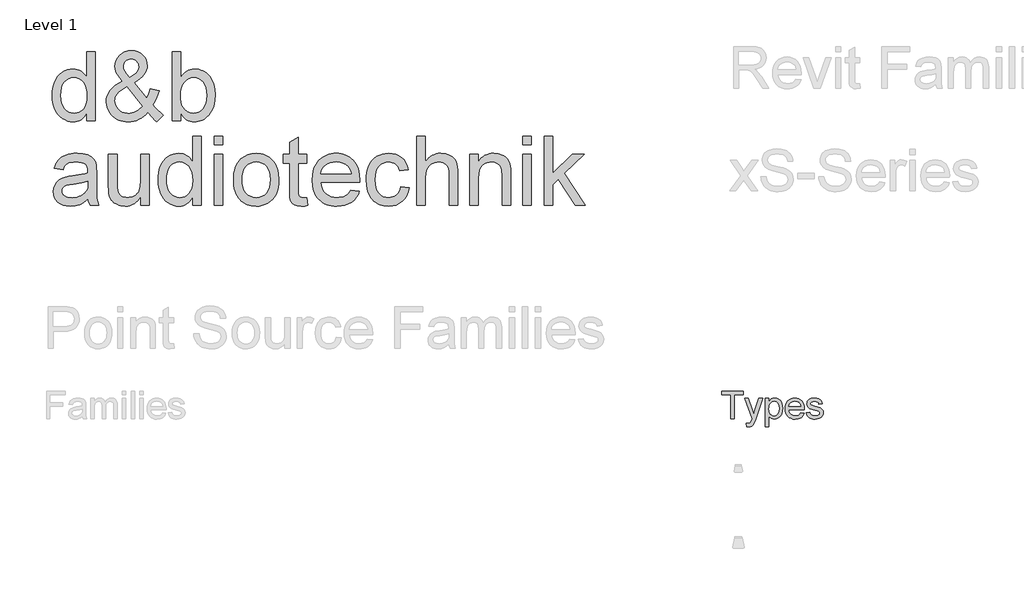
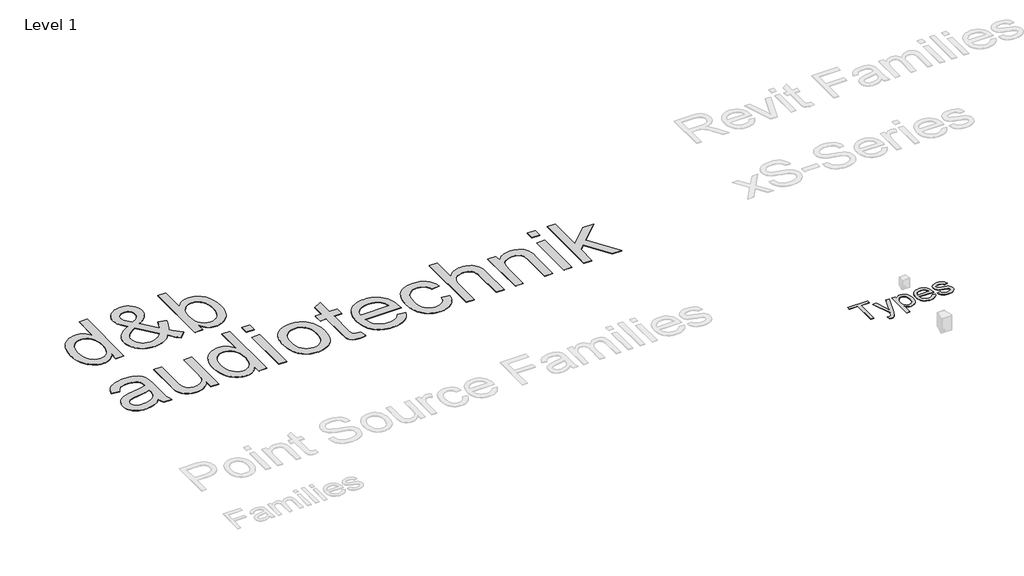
# One storey, part 10 of 12: 2 proxies.
"""IFC4 building model written with IfcOpenShell, lengths in millimetres."""

from ifc_helpers import new_model, si_unit, origin, origin_with_axes, place, context, project, spatial, polyline, outline, extrude, element, save

model = new_model("IFC4")

# Units and contexts
model_context = context("Model", 3, world=origin())
ifc_project = project(units=[si_unit("LENGTHUNIT", "METRE", prefix="MILLI")], contexts=[model_context])

# Site, building, storey
site = spatial("IfcSite", under=ifc_project)
building = spatial("IfcBuilding", under=site)
storey = spatial("IfcBuildingStorey", under=building, Name="Level 1", Elevation=0.0)

# Proxies
placement = place(None, origin())
element("IfcBuildingElementProxy", 1, Name="1000mm Arial", ObjectType="1000mm Arial", at=placement, inside=storey, context=model_context, shape_type="SweptSolid", body=[
    extrude(outline(polyline([(-20485.0918031, 21579.111869), (-20485.0918031, 21694.6019258), (-20502.4384754, 21663.947296), (-20521.720443, 21637.3799502), (-20542.937706, 21614.8998883), (-20566.0902643, 21596.5071105), (-20591.1781179, 21582.2016166), (-20618.2012669, 21571.9834066), (-20647.1597112, 21565.8524807), (-20678.0534508, 21563.8088387), (-20718.4630152, 21566.7678231), (-20757.1988107, 21575.6447762), (-20794.2608372, 21590.4396981), (-20829.6490948, 21611.1525887), (-20862.2577004, 21637.1632569), (-20890.9807709, 21667.8515115), (-20915.8183064, 21703.2173525), (-20936.7703069, 21743.26078), (-20953.4033857, 21787.2196312), (-20965.2841563, 21834.3317435), (-20972.4126187, 21884.597117), (-20974.7887728, 21938.0157516), (-20972.5994233, 21990.4555302), (-20966.0313746, 22040.4145442), (-20955.0846269, 22087.8927935), (-20939.75918, 22132.8902781), (-20920.0625062, 22174.0918939), (-20896.0020777, 22210.1825366), (-20867.5778945, 22241.1622064), (-20834.7899565, 22267.0309031), (-20798.7964521, 22287.429962), (-20760.7555697, 22302.0007184), (-20720.6673091, 22310.7431723), (-20678.5316705, 22313.6573235), (-20647.7163888, 22311.5725845), (-20618.6346535, 22305.3183676), (-20591.2864646, 22294.8946726), (-20565.671822, 22280.3014997), (-20542.0746689, 22262.3757332), (-20520.778948, 22241.9542577), (-20501.7846594, 22219.0370732), (-20485.0918031, 22193.6241796), (-20485.0918031, 22558.5058084), (-20362.6675607, 22558.5058084), (-20362.6675607, 21579.111869), (-20485.0918031, 21579.111869)]), holes=[polyline([(-20852.3645304, 21938.4939713), (-20848.9123819, 21879.1274792), (-20838.5559366, 21827.7562227), (-20821.2951944, 21784.3802017), (-20797.1301554, 21748.9994163), (-20768.2725855, 21721.5391447), (-20736.934251, 21701.9246649), (-20703.1151518, 21690.1559771), (-20666.815288, 21686.2330811), (-20630.3435639, 21689.9766447), (-20596.7262136, 21701.2073354), (-20565.9632372, 21719.9251532), (-20538.0546345, 21746.1300982), (-20514.8833958, 21780.0313914), (-20498.332511, 21821.8382539), (-20488.4019801, 21871.5506859), (-20485.0918031, 21929.1686872), (-20488.4617575, 21992.3385203), (-20498.5716208, 22046.5118453), (-20515.4213929, 22091.6886623), (-20539.0110739, 22127.8689713), (-20567.5323956, 22155.5907693), (-20599.1770896, 22175.3920537), (-20633.945156, 22187.2728242), (-20671.8365948, 22191.2330811), (-20708.8537882, 22187.4297401), (-20742.6728874, 22176.019717), (-20773.2938924, 22157.0030119), (-20800.7168031, 22130.3796247), (-20823.3126838, 22095.5667252), (-20839.4525986, 22051.9814831), (-20849.1365474, 21999.6238985), (-20852.3645304, 21938.4939713)])]), origin_with_axes(), (0.0, 0.0, 1.0), 5.0),
    extrude(outline(polyline([(-19617.362163, 21700.1014523), (-19647.8038355, 21668.157871), (-19679.590501, 21640.4734339), (-19712.7221594, 21617.0481409), (-19747.1988107, 21597.8819921), (-19783.0503436, 21582.9749875), (-19820.3066469, 21572.327127), (-19858.9677205, 21565.9384108), (-19899.0335645, 21563.8088387), (-19935.7219818, 21565.3854693), (-19970.4676317, 21570.1153609), (-20003.270514, 21577.9985138), (-20034.1306289, 21589.0349277), (-20063.0479762, 21603.2246028), (-20090.0225559, 21620.567539), (-20115.0543682, 21641.0637363), (-20138.143413, 21664.7131948), (-20169.42197, 21707.0505823), (-20191.7637965, 21751.8089571), (-20205.1688924, 21798.988319), (-20209.6372577, 21848.5886682), (-20206.0431377, 21892.569936), (-20195.260778, 21934.3693264), (-20177.2901785, 21973.9868394), (-20152.1313391, 22011.4224751), (-20119.829093, 22046.661289), (-20080.4282733, 22079.6883368), (-20033.9288799, 22110.5036185), (-19980.330913, 22139.1071341), (-20033.7420754, 22208.2098804), (-20065.8126838, 22262.9660357), (-20081.8629324, 22309.712011), (-20087.2130152, 22354.7842175), (-20082.9987041, 22397.569936), (-20070.3557709, 22437.4564476), (-20049.2842155, 22474.4437523), (-20019.784038, 22508.5318501), (-19983.9026163, 22537.0905326), (-19943.6873287, 22557.4895915), (-19899.138175, 22569.7290269), (-19850.2551554, 22573.8088387), (-19803.5839018, 22569.9083593), (-19761.3660692, 22558.2069211), (-19723.6016575, 22538.7045241), (-19690.2906667, 22511.4011682), (-19663.0919215, 22478.6281746), (-19643.6642463, 22442.7168643), (-19632.0076412, 22403.6672371), (-19628.1221061, 22361.4792932), (-19630.9988965, 22326.7336434), (-19639.6292676, 22293.273209), (-19654.0132194, 22261.09799), (-19674.150752, 22230.2079864), (-19700.0418653, 22200.6031983), (-19731.6865593, 22172.2836256), (-19769.084834, 22145.2492684), (-19812.2366895, 22119.5001266), (-19635.0562917, 21898.8017364), (-19604.8686734, 21961.866959), (-19582.2130152, 22034.3770205), (-19459.7887728, 22007.8358273), (-19477.213903, 21947.9836434), (-19497.4485739, 21894.4379817), (-19520.4927856, 21847.1988422), (-19546.346538, 21806.2662251), (-19512.6320493, 21763.9138931), (-19476.765572, 21725.0884315), (-19438.7471061, 21689.7898401), (-19398.5766516, 21658.018119), (-19490.3948334, 21563.8088387), (-19521.3745032, 21589.6327023), (-19552.8622813, 21620.9560925), (-19617.362163, 21700.1014523)]), holes=[polyline([(-19874.1661402, 22196.7326076), (-19810.1444783, 22237.3513931), (-19788.4004264, 22255.6657131), (-19773.500894, 22272.6499845), (-19756.2849849, 22306.9921365), (-19750.5463486, 22344.7416038), (-19752.4368108, 22367.2104574), (-19758.1081975, 22387.512378), (-19767.5605087, 22405.6473656), (-19780.7937444, 22421.6154201), (-19796.8664095, 22434.6394347), (-19814.8370091, 22443.9423022), (-19834.705543, 22449.5240228), (-19856.4720114, 22451.3845963), (-19878.7017552, 22449.5389671), (-19899.0036757, 22444.0020797), (-19917.3777732, 22434.773934), (-19933.8240474, 22421.85453), (-19947.3711148, 22406.2750289), (-19957.0475915, 22389.066592), (-19962.8534775, 22370.2292193), (-19964.7887728, 22349.7629107), (-19962.1585645, 22327.9142483), (-19954.2679395, 22304.9298141), (-19941.0571203, 22280.6900532), (-19922.4663296, 22255.0754107), (-19874.1661402, 22196.7326076)]), polyline([(-19699.376841, 21788.3329864), (-19917.9232425, 22061.1573235), (-19963.7202507, 22034.0333001), (-20001.4024684, 22007.8956048), (-20030.9698956, 21982.7442376), (-20052.4225323, 21958.5791985), (-20067.6433686, 21934.967101), (-20078.5153945, 21911.4745584), (-20085.03861, 21888.1015707), (-20087.2130152, 21864.8481379), (-20084.2390865, 21836.2446223), (-20075.3173003, 21807.1031095), (-20060.4476566, 21777.4235996), (-20039.6301554, 21747.2060925), (-20013.3579608, 21720.5304), (-19982.1242368, 21701.476334), (-19945.9289835, 21690.0438943), (-19904.7722008, 21686.2330811), (-19877.2969848, 21688.0114606), (-19849.3883822, 21693.3465991), (-19821.0463929, 21702.2384966), (-19792.2710171, 21714.6871531), (-19764.7210793, 21729.9602947), (-19740.055404, 21747.3256474), (-19718.2739912, 21766.7832113), (-19699.376841, 21788.3329864)])]), origin_with_axes(), (0.0, 0.0, 1.0), 5.0),
    extrude(outline(polyline([(-19153.7281667, 21579.111869), (-19276.1524092, 21579.111869), (-19276.1524092, 22558.5058084), (-19153.7281667, 22558.5058084), (-19153.7281667, 22195.2979485), (-19134.2481863, 22223.0384271), (-19113.468046, 22247.0801751), (-19091.3877459, 22267.4231927), (-19068.0072861, 22284.0674798), (-19043.3266664, 22297.0130364), (-19017.3458869, 22306.2598626), (-18990.0649476, 22311.8079583), (-18961.4838486, 22313.6573235), (-18929.5178507, 22311.9910268), (-18898.418626, 22306.9921365), (-18868.1861746, 22298.6606527), (-18838.8204963, 22286.9965754), (-18811.1734201, 22272.3137363), (-18786.0967747, 22254.925967), (-18763.5905602, 22234.8332675), (-18743.6547766, 22212.0356379), (-18710.3886189, 22158.7440305), (-18685.1924186, 22095.4695868), (-18669.3215024, 22024.8425153), (-18664.031197, 21949.4930243), (-18669.508307, 21862.5467056), (-18676.3546945, 21822.9964423), (-18685.9396369, 21786.0614429), (-18698.2631343, 21751.7417074), (-18713.3251867, 21720.0372359), (-18731.1257941, 21690.9480284), (-18751.6649565, 21664.4740849), (-18797.6861302, 21620.4330397), (-18822.3499374, 21603.1312005), (-18848.1158916, 21588.9751502), (-18874.9839928, 21577.9648889), (-18902.954241, 21570.1004166), (-18932.0266361, 21565.3817332), (-18962.2011781, 21563.8088387), (-18991.8694798, 21565.8375363), (-19019.9013734, 21571.9236292), (-19046.296859, 21582.0671173), (-19071.0559366, 21596.2680006), (-19094.1786062, 21614.5262792), (-19115.6648677, 21636.841953), (-19135.5147213, 21663.2150221), (-19153.7281667, 21693.6454864), (-19153.7281667, 21579.111869)]), holes=[polyline([(-19153.7281667, 21943.7543879), (-19151.6359556, 21888.5797904), (-19145.359322, 21841.6544826), (-19134.8982662, 21802.9784646), (-19120.252788, 21772.5517364), (-19090.5882224, 21734.7873247), (-19056.1115711, 21707.8127449), (-19016.8228341, 21691.6279971), (-18972.7220114, 21686.2330811), (-18936.1083159, 21690.2082823), (-18902.0650512, 21702.133886), (-18870.5922174, 21722.0098922), (-18841.6898145, 21749.8363008), (-18817.5247754, 21785.5383901), (-18800.2640332, 21829.0414381), (-18789.9075879, 21880.345445), (-18786.4554395, 21939.4504107), (-18789.7656164, 21999.6762037), (-18799.6961473, 22051.4733747), (-18816.2470322, 22094.8419234), (-18839.4182709, 22129.7818501), (-18867.2820404, 22156.6667636), (-18897.9105176, 22175.8702733), (-18931.3037024, 22187.3923792), (-18967.4615948, 22191.2330811), (-19004.0752903, 22187.2578799), (-19038.118555, 22175.3322762), (-19069.5913888, 22155.45627), (-19098.4937917, 22127.6298614), (-19122.6588308, 22092.2864369), (-19139.919573, 22049.8593832), (-19150.2760183, 22000.3487002), (-19153.7281667, 21943.7543879)])]), origin_with_axes(), (0.0, 0.0, 1.0), 5.0),
    extrude(outline(polyline([(-20469.7887728, 20473.9603538), (-20498.8182028, 20446.7167755), (-20528.2810195, 20423.8070631), (-20558.1772227, 20405.2312168), (-20588.5068126, 20390.9892364), (-20619.6135094, 20380.42357), (-20651.8410337, 20372.8766654), (-20719.6585645, 20366.8391417), (-20774.1681377, 20370.4706225), (-20821.9676909, 20381.365065), (-20863.0572239, 20399.5224691), (-20897.4367368, 20424.9428349), (-20924.5831768, 20456.0121708), (-20943.9734911, 20491.1164855), (-20955.6076796, 20530.2557788), (-20959.4857425, 20573.4300508), (-20953.6275512, 20624.1811162), (-20936.0529773, 20670.2695394), (-20908.9438983, 20709.7226644), (-20874.4821914, 20740.5678349), (-20833.9829608, 20763.8810451), (-20788.7613107, 20780.7382894), (-20744.7053211, 20790.123351), (-20682.8356478, 20799.1497478), (-20557.6616421, 20818.5176455), (-20509.331564, 20829.4569211), (-20470.5061023, 20841.2330811), (-20469.7887728, 20868.4916038), (-20471.8959283, 20898.1711138), (-20478.217395, 20923.1282042), (-20488.7531727, 20943.3628751), (-20503.5032614, 20958.8751266), (-20528.998349, 20974.3574893), (-20560.0527406, 20985.4163198), (-20596.6664362, 20992.051618), (-20638.8394357, 20994.2633841), (-20678.0534508, 20992.7913641), (-20711.7679395, 20988.3753041), (-20739.9829016, 20981.0152041), (-20762.6983372, 20970.7110641), (-20781.3638497, 20956.6558883), (-20797.4290427, 20938.042681), (-20810.893916, 20914.8714423), (-20821.7584698, 20887.142172), (-20944.1827122, 20902.4452023), (-20934.8649003, 20937.713905), (-20922.9318244, 20969.3959599), (-20908.3834846, 20997.4913671), (-20891.2198808, 21022.0001266), (-20870.7012669, 21043.4154024), (-20846.0878969, 21062.2303586), (-20817.3797707, 21078.4449952), (-20784.5768883, 21092.0593122), (-20748.3442741, 21102.8341997), (-20709.3469523, 21110.530548), (-20667.5849228, 21115.1483569), (-20623.0581857, 21116.6876266), (-20540.2962894, 21111.2478775), (-20505.3488906, 21104.4481912), (-20474.6905247, 21094.9286304), (-20425.2246748, 21070.3899822), (-20406.1631366, 21056.0359191), (-20390.8825228, 21040.29203), (-20368.1073097, 21003.0805598), (-20353.3422766, 20957.2013576), (-20348.8589669, 20914.8789144), (-20347.3645304, 20850.0801455), (-20347.3645304, 20697.767172), (-20345.8103164, 20565.0910948), (-20341.1476743, 20485.0789618), (-20331.9419452, 20432.5046839), (-20316.7584698, 20382.142172), (-20439.1827122, 20382.142172), (-20458.7897198, 20424.7037251), (-20469.7887728, 20473.9603538)]), holes=[polyline([(-20469.7887728, 20718.8088387), (-20552.0425607, 20698.4247241), (-20667.2935077, 20681.2685925), (-20730.8070612, 20671.8835309), (-20772.6213959, 20661.4224751), (-20800.0293623, 20647.8529912), (-20820.3238107, 20629.1426455), (-20832.8770777, 20606.7260972), (-20837.0615001, 20582.0380054), (-20834.7824843, 20563.013828), (-20827.9454371, 20545.6335309), (-20816.5503584, 20529.897114), (-20800.5972482, 20515.8045773), (-20780.2355501, 20504.1928053), (-20755.6147079, 20495.8986824), (-20726.7347215, 20490.9222087), (-20693.595591, 20489.2633841), (-20659.7615474, 20491.0940689), (-20627.8403827, 20496.5861233), (-20597.8320967, 20505.7395471), (-20569.7366895, 20518.5543406), (-20544.3910455, 20533.9694536), (-20522.6320493, 20550.9238363), (-20504.4597008, 20569.4174887), (-20489.8740001, 20589.4504107), (-20481.4005448, 20607.3836493), (-20475.3480768, 20629.1426455), (-20470.5061023, 20684.1379107), (-20469.7887728, 20718.8088387)])]), origin_with_axes(), (0.0, 0.0, 1.0), 5.0),
    extrude(outline(polyline([(-19719.940288, 20382.142172), (-19719.940288, 20505.7619637), (-19741.1762314, 20473.2019273), (-19764.2353874, 20444.9832291), (-19789.117756, 20421.1058691), (-19815.8233372, 20401.5698472), (-19844.352131, 20386.3751636), (-19874.7041374, 20375.5218181), (-19906.8793564, 20369.0098108), (-19940.877788, 20366.8391417), (-20000.5058064, 20372.9364429), (-20028.7730738, 20380.5580693), (-20056.00918, 20391.2283463), (-20102.575823, 20418.7259788), (-20120.7033384, 20434.8061162), (-20135.3936497, 20452.4404675), (-20157.4814219, 20493.388029), (-20171.8579016, 20542.5848804), (-20177.2378732, 20588.972191), (-20179.031197, 20656.4011682), (-20179.031197, 21101.3845963), (-20056.6069546, 21101.3845963), (-20056.6069546, 20714.0266417), (-20054.7538533, 20636.5550508), (-20049.1945493, 20589.2113008), (-20041.864338, 20567.1459451), (-20031.3509769, 20547.5762984), (-20017.6544659, 20530.5023608), (-20000.774805, 20515.9241323), (-19981.2201027, 20504.260055), (-19959.4984674, 20495.9285712), (-19935.6098991, 20490.9296809), (-19909.5543978, 20489.2633841), (-19882.7217895, 20490.9670418), (-19856.74101, 20496.0780148), (-19831.6120594, 20504.5963032), (-19807.3349376, 20516.5219069), (-19785.2247488, 20531.3840784), (-19766.5965971, 20548.7120702), (-19751.4504827, 20568.5058824), (-19739.7864054, 20590.7655148), (-19731.103729, 20616.9106823), (-19724.9018173, 20648.3610996), (-19719.940288, 20727.1776834), (-19719.940288, 21101.3845963), (-19597.5160455, 21101.3845963), (-19597.5160455, 20382.142172), (-19719.940288, 20382.142172)])), origin_with_axes(), (0.0, 0.0, 1.0), 5.0),
    extrude(outline(polyline([(-18985.3948334, 20382.142172), (-18985.3948334, 20497.6322288), (-19002.7415057, 20466.977599), (-19022.0234733, 20440.4102532), (-19043.2407363, 20417.9301914), (-19066.3932946, 20399.5374135), (-19091.4811482, 20385.2319196), (-19118.5042972, 20375.0137097), (-19147.4627415, 20368.8827837), (-19178.3564811, 20366.8391417), (-19218.7660455, 20369.7981261), (-19257.501841, 20378.6750792), (-19294.5638675, 20393.4700011), (-19329.9521251, 20414.1828917), (-19362.5607307, 20440.1935599), (-19391.2838012, 20470.8818145), (-19416.1213367, 20506.2476556), (-19437.0733372, 20546.291083), (-19453.706416, 20590.2499342), (-19465.5871866, 20637.3620466), (-19472.715649, 20687.62742), (-19475.0918031, 20741.0460546), (-19472.9024536, 20793.4858332), (-19466.3344049, 20843.4448472), (-19455.3876572, 20890.9230965), (-19440.0622103, 20935.9205811), (-19420.3655365, 20977.1221969), (-19396.305108, 21013.2128396), (-19367.8809248, 21044.1925094), (-19335.0929868, 21070.0612061), (-19299.0994824, 21090.4602651), (-19261.0586, 21105.0310215), (-19220.9703394, 21113.7734753), (-19178.8347008, 21116.6876266), (-19148.0194191, 21114.6028876), (-19118.9376838, 21108.3486706), (-19091.5894949, 21097.9249756), (-19065.9748523, 21083.3318027), (-19042.3776992, 21065.4060363), (-19021.0819783, 21044.9845608), (-19002.0876897, 21022.0673762), (-18985.3948334, 20996.6544826), (-18985.3948334, 21361.5361114), (-18862.970591, 21361.5361114), (-18862.970591, 20382.142172), (-18985.3948334, 20382.142172)]), holes=[polyline([(-19352.6675607, 20741.5242743), (-19349.2154122, 20682.1577822), (-19338.8589669, 20630.7865257), (-19321.5982247, 20587.4105048), (-19297.4331857, 20552.0297194), (-19268.5756158, 20524.5694477), (-19237.2372813, 20504.954968), (-19203.4181821, 20493.1862801), (-19167.1183183, 20489.2633841), (-19130.6465942, 20493.0069477), (-19097.0292439, 20504.2376384), (-19066.2662675, 20522.9554562), (-19038.3576648, 20549.1604012), (-19015.1864261, 20583.0616944), (-18998.6355413, 20624.868557), (-18988.7050104, 20674.5809889), (-18985.3948334, 20732.1989902), (-18988.7647878, 20795.3688233), (-18998.8746511, 20849.5421483), (-19015.7244233, 20894.7189653), (-19039.3141042, 20930.8992743), (-19067.8354259, 20958.6210724), (-19099.4801199, 20978.4223567), (-19134.2481863, 20990.3031273), (-19172.1396251, 20994.2633841), (-19209.1568185, 20990.4600431), (-19242.9759177, 20979.05002), (-19273.5969227, 20960.0333149), (-19301.0198334, 20933.4099277), (-19323.6157141, 20898.5970282), (-19339.7556289, 20855.0117861), (-19349.4395777, 20802.6542015), (-19352.6675607, 20741.5242743)])]), origin_with_axes(), (0.0, 0.0, 1.0), 5.0),
    extrude(outline(polyline([(-18679.3342273, 20382.142172), (-18679.3342273, 21101.3845963), (-18556.9099849, 21101.3845963), (-18556.9099849, 20382.142172), (-18679.3342273, 20382.142172)])), origin_with_axes(), (0.0, 0.0, 1.0), 5.0),
    extrude(outline(polyline([(-18679.3342273, 21239.111869), (-18679.3342273, 21361.5361114), (-18556.9099849, 21361.5361114), (-18556.9099849, 21239.111869), (-18679.3342273, 21239.111869)])), origin_with_axes(), (0.0, 0.0, 1.0), 5.0),
    extrude(outline(polyline([(-18403.8796819, 20741.7633841), (-18402.2245934, 20789.9477547), (-18397.259328, 20834.9116145), (-18388.9838856, 20876.6549635), (-18377.3982662, 20915.1778018), (-18362.5024698, 20950.4801292), (-18344.2964965, 20982.5619459), (-18322.7803463, 21011.4232519), (-18297.954019, 21037.064047), (-18251.2977098, 21071.8993631), (-18199.7994262, 21096.7817317), (-18143.4591682, 21111.7111528), (-18082.2769357, 21116.6876266), (-18014.7358757, 21110.6276863), (-17983.391937, 21103.0527611), (-17953.6657259, 21092.4478657), (-17925.5572424, 21078.8130002), (-17899.0664865, 21062.1481646), (-17874.1934581, 21042.4533588), (-17850.9381573, 21019.728583), (-17829.8946226, 20994.3325018), (-17811.6568925, 20966.6237801), (-17796.224967, 20936.6024178), (-17783.5988462, 20904.2684149), (-17773.77853, 20869.6217715), (-17766.7640184, 20832.6624875), (-17761.1524092, 20751.8059978), (-17763.6331738, 20686.2749549), (-17771.0754679, 20628.1264287), (-17783.4792913, 20577.3604189), (-17800.844644, 20533.9769258), (-17822.9548328, 20496.5039292), (-17849.5931644, 20463.4694092), (-17880.7596387, 20434.8733658), (-17916.4542558, 20410.7157989), (-17955.2871896, 20391.5197614), (-17995.8686142, 20377.808306), (-18038.1985295, 20369.5814328), (-18082.2769357, 20366.8391417), (-18150.8043238, 20372.8766654), (-18182.4845107, 20380.42357), (-18212.4423594, 20390.9892364), (-18240.6778701, 20404.5736647), (-18267.1910426, 20421.1768548), (-18291.9818769, 20440.7988067), (-18315.0503732, 20463.4395205), (-18335.8697424, 20488.9196637), (-18353.9131957, 20517.059904), (-18369.1807332, 20547.8602414), (-18381.6723547, 20581.3206758), (-18391.3880604, 20617.4412073), (-18398.3278501, 20656.2218358), (-18403.8796819, 20741.7633841)]), holes=[polyline([(-18281.4554395, 20742.002494), (-18277.9136248, 20682.6210576), (-18267.2881809, 20631.204968), (-18249.5791078, 20587.7542252), (-18224.7864054, 20552.2688292), (-18194.6286757, 20524.703947), (-18160.8245209, 20505.0147454), (-18123.3739409, 20493.2012245), (-18082.2769357, 20489.2633841), (-18041.3891516, 20493.223641), (-18004.0880152, 20505.1044116), (-17970.3735266, 20524.9056959), (-17940.2456857, 20552.627494), (-17915.4529833, 20588.4640825), (-17897.7439101, 20632.6097383), (-17887.1184662, 20685.0644613), (-17883.5766516, 20745.8282516), (-17887.1408828, 20803.3266979), (-17897.8335763, 20853.3977947), (-17915.6547322, 20896.0415417), (-17940.6043505, 20931.2579391), (-17970.8442741, 20958.8228213), (-18004.5363462, 20978.5120229), (-18041.6805667, 20990.3255438), (-18082.2769357, 20994.2633841), (-18123.3739409, 20990.3404882), (-18160.8245209, 20978.5718003), (-18194.6286757, 20958.9573206), (-18224.7864054, 20931.4970489), (-18249.5791078, 20896.1162635), (-18267.2881809, 20852.7402426), (-18277.9136248, 20801.3689861), (-18281.4554395, 20742.002494)])]), origin_with_axes(), (0.0, 0.0, 1.0), 5.0),
    extrude(outline(polyline([(-17363.2736213, 20484.2420773), (-17347.970591, 20378.5555243), (-17396.4501128, 20369.7682374), (-17439.549663, 20366.8391417), (-17498.3109082, 20371.920226), (-17522.0873938, 20378.2715814), (-17542.127788, 20387.1634788), (-17573.0925133, 20410.6560215), (-17593.2972955, 20440.4849751), (-17599.7831502, 20461.5415861), (-17604.4159035, 20491.7142601), (-17608.1221061, 20579.407797), (-17608.1221061, 20978.9603538), (-17699.940288, 20978.9603538), (-17699.940288, 21101.3845963), (-17608.1221061, 21101.3845963), (-17608.1221061, 21276.1738955), (-17485.6978637, 21348.1459599), (-17485.6978637, 21101.3845963), (-17363.2736213, 21101.3845963), (-17363.2736213, 20978.9603538), (-17485.6978637, 20978.9603538), (-17485.6978637, 20582.9944448), (-17484.0838722, 20542.7044353), (-17479.2418978, 20519.8694448), (-17470.7833869, 20507.2265115), (-17458.3197861, 20497.5126739), (-17440.655546, 20491.3257066), (-17416.5951175, 20489.2633841), (-17363.2736213, 20484.2420773)])), origin_with_axes(), (0.0, 0.0, 1.0), 5.0),
    extrude(outline(polyline([(-16737.284038, 20596.3845963), (-16617.250894, 20581.081566), (-16635.6548802, 20533.0055421), (-16660.4998879, 20490.6382658), (-16691.7859171, 20453.9797371), (-16729.5129679, 20423.0299561), (-16773.2924867, 20398.4464748), (-16822.7359201, 20380.8868453), (-16877.8432679, 20370.3510676), (-16938.6145304, 20366.8391417), (-16977.6305327, 20368.3541268), (-17014.5767404, 20372.8990819), (-17049.4531534, 20380.4740072), (-17082.2597719, 20391.0789026), (-17112.9965957, 20404.7137681), (-17141.6636248, 20421.3786037), (-17168.2608594, 20441.0734094), (-17192.7882993, 20463.7981853), (-17214.812558, 20489.25778), (-17233.9002489, 20517.1570424), (-17250.0513719, 20547.4959725), (-17263.2659272, 20580.2745702), (-17273.5439146, 20615.4928356), (-17280.8853341, 20653.1507687), (-17286.7584698, 20735.7856379), (-17280.8255567, 20821.2225757), (-17273.4094153, 20860.1414396), (-17263.0268173, 20896.5272336), (-17249.6777628, 20930.3799576), (-17233.3622517, 20961.6996117), (-17214.0802841, 20990.4861958), (-17191.8318599, 21016.7397099), (-17167.2184899, 21040.1650029), (-17140.8416847, 21060.4669234), (-17112.7014444, 21077.6454716), (-17082.797769, 21091.7006474), (-17051.1306585, 21102.6324508), (-17017.7001128, 21110.4408818), (-16982.5061319, 21115.1259404), (-16945.548716, 21116.6876266), (-16909.7999256, 21115.1296765), (-16875.721168, 21110.4558261), (-16843.3124433, 21102.6660756), (-16812.5737515, 21091.7604249), (-16783.5050925, 21077.7388739), (-16756.1064663, 21060.6014227), (-16730.377873, 21040.3480713), (-16706.3193126, 21016.9788198), (-16684.54724, 20990.7850831), (-16665.6781105, 20962.0582764), (-16649.711924, 20930.7983998), (-16636.6486805, 20897.0054533), (-16626.48838, 20860.6794368), (-16619.2310224, 20821.8203503), (-16613.4251364, 20736.5029675), (-16614.142466, 20703.5058084), (-17164.3342273, 20703.5058084), (-17157.2431259, 20654.6526775), (-17143.143117, 20611.866959), (-17122.0342007, 20575.1486528), (-17093.916377, 20544.4977591), (-17060.3438598, 20520.3327201), (-17022.8708632, 20503.0719779), (-16981.4973873, 20492.7155326), (-16936.2234319, 20489.2633841), (-16902.3594996, 20490.8624313), (-16871.0659982, 20495.6595726), (-16842.3429276, 20503.6548082), (-16816.190288, 20514.8481379), (-16792.6080791, 20529.5384492), (-16771.5963012, 20548.0246294), (-16753.1549541, 20570.3066784), (-16737.284038, 20596.3845963)]), holes=[polyline([(-17164.3342273, 20825.9300508), (-16735.8493789, 20825.9300508), (-16742.1409568, 20860.5710901), (-16752.4077359, 20890.6092648), (-16766.6497162, 20916.044575), (-16784.8668978, 20936.8770205), (-16818.2526104, 20961.9835546), (-16856.2411876, 20979.9167932), (-16898.8326293, 20990.6767364), (-16946.0269357, 20994.2633841), (-16989.0741806, 20991.4015381), (-17028.5497221, 20982.8160001), (-17064.4535603, 20968.5067702), (-17096.7856952, 20948.4738482), (-17123.9171908, 20923.6437848), (-17144.2191113, 20894.9431308), (-17157.6914569, 20862.3718862), (-17164.3342273, 20825.9300508)])]), origin_with_axes(), (0.0, 0.0, 1.0), 5.0),
    extrude(outline(polyline([(-16031.9099849, 20642.2936872), (-15909.4857425, 20626.9906569), (-15922.8011722, 20569.2232119), (-15943.6186734, 20518.1060096), (-15971.9382461, 20473.63905), (-16007.7598902, 20435.822333), (-16049.574225, 20405.6421868), (-16095.8718694, 20384.0849395), (-16146.6528235, 20371.1505912), (-16201.9170872, 20366.8391417), (-16270.5789746, 20372.8542488), (-16302.2479532, 20380.3731328), (-16332.1422884, 20390.8995702), (-16360.2619802, 20404.4335613), (-16386.6070286, 20420.9751059), (-16411.1774336, 20440.524204), (-16433.9731952, 20463.0808557), (-16454.5123575, 20488.4470482), (-16472.3129649, 20516.4247685), (-16487.3750173, 20547.0140167), (-16499.6985148, 20580.2147928), (-16509.2834572, 20616.0270967), (-16516.1298447, 20654.4509285), (-16521.6069546, 20739.1331758), (-16519.2681614, 20795.4211286), (-16512.2517818, 20848.0776005), (-16500.5578158, 20897.1025916), (-16484.1862633, 20942.4961019), (-16463.0250417, 20983.3465251), (-16436.9620683, 21018.7422549), (-16405.9973429, 21048.6832912), (-16370.1308656, 21073.1696341), (-16330.9841001, 21092.2087558), (-16290.17851, 21105.8081285), (-16247.7140954, 21113.967752), (-16203.5908561, 21116.6876266), (-16149.2755596, 21112.9515352), (-16100.1459579, 21101.743261), (-16056.2020511, 21083.0628041), (-16017.4438391, 21056.9101644), (-15984.528874, 21023.8831166), (-15958.1147079, 20984.5794353), (-15938.2013409, 20938.9991204), (-15924.7887728, 20887.142172), (-16047.2130152, 20871.8391417), (-16056.769937, 20900.4351852), (-16069.4203424, 20925.2503041), (-16085.1642315, 20946.2844986), (-16104.0016042, 20963.5377686), (-16125.454241, 20976.9802254), (-16149.0439219, 20986.5819803), (-16174.7706472, 20992.3430332), (-16202.6344167, 20994.2633841), (-16244.2320582, 20990.4824597), (-16281.7498879, 20979.1396862), (-16315.1879057, 20960.2350638), (-16344.5461118, 20933.7685925), (-16368.4496245, 20899.1275532), (-16385.5235621, 20855.6992269), (-16395.7679247, 20803.4836138), (-16399.1827122, 20742.4807137), (-16395.8426465, 20680.5587351), (-16385.8224494, 20627.7378751), (-16369.1221209, 20584.0181338), (-16345.7416611, 20549.399511), (-16316.9662852, 20523.0899555), (-16284.0812089, 20504.2974159), (-16247.086432, 20493.0218921), (-16205.9819546, 20489.2633841), (-16172.8577684, 20491.6096495), (-16142.587956, 20498.6484457), (-16115.1725175, 20510.3797726), (-16090.6114527, 20526.8036304), (-16069.5922026, 20548.0993512), (-16052.8022079, 20574.4462677), (-16040.2414687, 20605.8443796), (-16031.9099849, 20642.2936872)])), origin_with_axes(), (0.0, 0.0, 1.0), 5.0),
    extrude(outline(polyline([(-15802.3645304, 20382.142172), (-15802.3645304, 21361.5361114), (-15679.940288, 21361.5361114), (-15679.940288, 21001.4366796), (-15658.1476669, 21028.4486203), (-15634.9726921, 21051.8589689), (-15610.4153634, 21071.6677254), (-15584.4756809, 21087.8748898), (-15557.1536447, 21100.4804622), (-15528.4492546, 21109.4844424), (-15498.3625107, 21114.8868305), (-15466.893413, 21116.6876266), (-15428.6208928, 21114.7224425), (-15392.9486923, 21108.8268903), (-15359.8768114, 21099.00097), (-15329.4052501, 21085.2446815), (-15302.3111154, 21068.0213002), (-15279.3715143, 21047.7941015), (-15260.5864468, 21024.5630853), (-15245.955913, 20998.3282516), (-15234.9718043, 20967.4681367), (-15227.1260124, 20930.3612771), (-15222.4185372, 20887.0076727), (-15220.8493789, 20837.4073235), (-15220.8493789, 20382.142172), (-15343.2736213, 20382.142172), (-15343.2736213, 20824.7345016), (-15345.7095529, 20866.0706166), (-15353.0173476, 20901.369208), (-15365.1970055, 20930.6302757), (-15382.2485266, 20953.8538198), (-15403.768413, 20971.5330042), (-15429.3531667, 20984.160993), (-15459.002788, 20991.7377864), (-15492.7172766, 20994.2633841), (-15518.981999, 20992.5597265), (-15544.4546701, 20987.4487535), (-15569.1352897, 20978.9304651), (-15593.023858, 20967.0048614), (-15614.8276873, 20952.1651064), (-15633.25409, 20934.9043643), (-15648.3030661, 20915.2226349), (-15659.9746156, 20893.1199182), (-15668.7095973, 20867.5799975), (-15674.9488699, 20837.5866559), (-15679.940288, 20764.2397099), (-15679.940288, 20382.142172), (-15802.3645304, 20382.142172)])), origin_with_axes(), (0.0, 0.0, 1.0), 5.0),
    extrude(outline(polyline([(-15052.5160455, 20382.142172), (-15052.5160455, 21101.3845963), (-14930.0918031, 21101.3845963), (-14930.0918031, 21000.9584599), (-14909.8944931, 21028.0824833), (-14887.5601388, 21051.5899703), (-14863.0887403, 21071.4809208), (-14836.4802974, 21087.7553349), (-14807.7348103, 21100.4132125), (-14776.852279, 21109.4545537), (-14743.8327033, 21114.8793583), (-14708.6760834, 21116.6876266), (-14648.3307354, 21110.859324), (-14593.0664717, 21093.3744163), (-14568.3634354, 21080.8062049), (-14546.9780484, 21066.4147809), (-14528.9103104, 21050.2001443), (-14514.1602217, 21032.1622951), (-14491.893117, 20990.7066251), (-14477.4568599, 20942.1374372), (-14472.6148855, 20895.6903491), (-14471.000894, 20823.7780622), (-14471.000894, 20382.142172), (-14593.4251364, 20382.142172), (-14593.4251364, 20807.2794826), (-14596.9520067, 20870.583815), (-14607.5326175, 20915.596244), (-14615.9388231, 20932.6253485), (-14627.0499589, 20947.8461848), (-14657.3870209, 20972.8630527), (-14696.27226, 20988.9133013), (-14741.4341327, 20994.2633841), (-14778.6082419, 20991.2595667), (-14813.1371985, 20982.2481143), (-14845.0210023, 20967.2290269), (-14874.2596535, 20946.2023046), (-14898.6862189, 20916.7768489), (-14916.1337657, 20876.5615612), (-14926.6022938, 20825.5564417), (-14930.0918031, 20763.7614902), (-14930.0918031, 20382.142172), (-15052.5160455, 20382.142172)])), origin_with_axes(), (0.0, 0.0, 1.0), 5.0),
    extrude(outline(polyline([(-14302.6675607, 20382.142172), (-14302.6675607, 21101.3845963), (-14180.2433183, 21101.3845963), (-14180.2433183, 20382.142172), (-14302.6675607, 20382.142172)])), origin_with_axes(), (0.0, 0.0, 1.0), 5.0),
    extrude(outline(polyline([(-14302.6675607, 21239.111869), (-14302.6675607, 21361.5361114), (-14180.2433183, 21361.5361114), (-14180.2433183, 21239.111869), (-14302.6675607, 21239.111869)])), origin_with_axes(), (0.0, 0.0, 1.0), 5.0),
    extrude(outline(polyline([(-13996.6069546, 20382.142172), (-13996.6069546, 21361.5361114), (-13874.1827122, 21361.5361114), (-13874.1827122, 20835.2553349), (-13599.6846061, 21101.3845963), (-13430.3948334, 21101.3845963), (-13708.2404773, 20831.907797), (-13415.0918031, 20382.142172), (-13558.0794925, 20382.142172), (-13795.9937917, 20746.784691), (-13874.1827122, 20670.986869), (-13874.1827122, 20382.142172), (-13996.6069546, 20382.142172)])), origin_with_axes(), (0.0, 0.0, 1.0), 5.0),
])
element("IfcBuildingElementProxy", 2, Name="400mm Arial", ObjectType="400mm Arial", at=placement, inside=storey, context=model_context, shape_type="SweptSolid", body=[
    extrude(outline(polyline([(-11345.9583027, 17351.3054836), (-11345.9583027, 17694.0933624), (-11474.5037572, 17694.0933624), (-11474.5037572, 17743.0630593), (-11168.4431512, 17743.0630593), (-11168.4431512, 17694.0933624), (-11296.9886057, 17694.0933624), (-11296.9886057, 17351.3054836), (-11345.9583027, 17351.3054836)])), origin_with_axes(), (0.0, 0.0, 1.0), 5.0),
    extrude(outline(polyline([(-11119.4734542, 17241.1236654), (-11125.5946663, 17288.2761275), (-11100.7272421, 17283.9721502), (-11087.6479334, 17285.3231209), (-11077.4857648, 17289.3760328), (-11063.2348179, 17304.4399533), (-11049.8446663, 17340.4977184), (-11046.0189088, 17352.3575669), (-11150.0795148, 17639.0024533), (-11098.4317875, 17639.0024533), (-11043.2452345, 17479.2770745), (-11024.0208027, 17415.386923), (-11004.7963709, 17471.8168472), (-10948.0795148, 17639.0024533), (-10896.8143633, 17639.0024533), (-10996.9535679, 17344.4191199), (-11022.9687194, 17280.5289684), (-11036.2871379, 17260.1328983), (-11051.3749694, 17246.0015063), (-11068.9017213, 17237.7522165), (-11089.5369012, 17235.0024533), (-11119.4734542, 17241.1236654)])), origin_with_axes(), (0.0, 0.0, 1.0), 5.0),
    extrude(outline(polyline([(-10856.261333, 17241.1236654), (-10856.261333, 17639.0024533), (-10807.291636, 17639.0024533), (-10807.291636, 17590.9891957), (-10791.3190982, 17614.6730262), (-10773.4336815, 17631.590048), (-10752.5833027, 17641.740261), (-10727.7158785, 17645.1236654), (-10694.5991644, 17640.3892904), (-10665.6429618, 17626.1861654), (-10642.0667307, 17603.3750858), (-10625.0899315, 17572.8168472), (-10614.832119, 17536.7351711), (-10611.4128482, 17497.353779), (-10615.2744722, 17455.4736891), (-10626.8593444, 17418.0171313), (-10645.7968444, 17386.885029), (-10671.7163519, 17363.9783055), (-10701.9039703, 17349.88278), (-10733.6458027, 17345.1842715), (-10756.1579949, 17348.328566), (-10776.2551777, 17357.7614495), (-10793.4591313, 17372.000441), (-10807.291636, 17389.5630593), (-10807.291636, 17241.1236654), (-10856.261333, 17241.1236654)]), holes=[polyline([(-10807.291636, 17492.8585139), (-10801.9953529, 17448.9579457), (-10795.374999, 17431.9572355), (-10786.1065035, 17418.2562411), (-10762.6617828, 17400.1795366), (-10749.2447314, 17395.6603605), (-10734.697886, 17394.1539684), (-10719.9418195, 17395.7141602), (-10706.2796805, 17400.3947355), (-10682.2371853, 17419.1170366), (-10672.6757802, 17433.3141839), (-10665.8462052, 17450.9425574), (-10660.3825451, 17496.4929836), (-10665.7146947, 17540.1544419), (-10672.3798818, 17557.2866625), (-10681.7111436, 17571.2865442), (-10705.1199978, 17589.9371124), (-10718.3846166, 17594.5997544), (-10732.6893633, 17596.1539684), (-10746.9492769, 17594.5011216), (-10760.3663283, 17589.5425811), (-10784.6718444, 17569.7084192), (-10794.5680032, 17554.9882191), (-10801.6366881, 17537.2731682), (-10805.8778991, 17516.5632665), (-10807.291636, 17492.8585139)])]), origin_with_axes(), (0.0, 0.0, 1.0), 5.0),
    extrude(outline(polyline([(-10354.8958027, 17437.0024533), (-10306.8825451, 17430.8812411), (-10314.2441396, 17411.6508316), (-10324.1821427, 17394.7039211), (-10336.6965544, 17380.0405096), (-10351.7873747, 17367.6605972), (-10369.2991822, 17357.8272047), (-10389.0765555, 17350.8033529), (-10435.4279997, 17345.1842715), (-10465.8128837, 17347.6082475), (-10492.8860963, 17354.8801758), (-10516.6476375, 17367.0000563), (-10537.0975072, 17383.9678889), (-10553.5422871, 17405.3114317), (-10565.2885584, 17430.5584429), (-10572.3363212, 17459.7089223), (-10574.6855754, 17492.7628699), (-10572.3124102, 17526.937645), (-10565.1929144, 17557.0595082), (-10553.3270882, 17583.1284594), (-10536.7149315, 17605.1444987), (-10516.3188614, 17622.6353841), (-10493.1012951, 17635.1288737), (-10467.0622326, 17642.6249675), (-10438.2016739, 17645.1236654), (-10410.2706547, 17642.6309452), (-10385.0116881, 17635.1527847), (-10362.4247741, 17622.6891839), (-10342.5099125, 17605.2401427), (-10326.2534317, 17583.2719253), (-10314.6416597, 17557.2507961), (-10307.6745965, 17527.1767549), (-10305.3522421, 17493.0498018), (-10305.6391739, 17479.8509381), (-10525.7158785, 17479.8509381), (-10522.8794379, 17460.3096858), (-10517.2394343, 17443.1953983), (-10508.7958678, 17428.5080759), (-10497.5487383, 17416.2477184), (-10469.1305328, 17399.6774059), (-10434.4715603, 17394.1539684), (-10408.4085868, 17396.7124438), (-10386.4583027, 17404.3878699), (-10368.620708, 17417.6584665), (-10354.8958027, 17437.0024533)]), holes=[polyline([(-10525.7158785, 17528.8206351), (-10354.3219391, 17528.8206351), (-10360.9452819, 17554.6923207), (-10373.9289466, 17573.199423), (-10387.2832317, 17583.2420366), (-10402.4786625, 17590.4153321), (-10438.3929618, 17596.1539684), (-10471.4020764, 17591.5750148), (-10498.6964656, 17577.838154), (-10517.6698321, 17556.4258671), (-10525.7158785, 17528.8206351)])]), origin_with_axes(), (0.0, 0.0, 1.0), 5.0),
    extrude(outline(polyline([(-10274.7461815, 17437.0024533), (-10225.7764845, 17443.1236654), (-10218.0532364, 17422.1776427), (-10203.1088709, 17406.7789684), (-10180.847744, 17397.3102184), (-10151.1742118, 17394.1539684), (-10121.8593444, 17397.0471976), (-10101.2480754, 17405.7268851), (-10089.0534732, 17418.3040631), (-10084.9886057, 17432.8897639), (-10089.0773841, 17445.371298), (-10101.3437194, 17454.8878699), (-10151.7480754, 17468.8518851), (-10225.4895527, 17492.8106919), (-10244.1520764, 17504.8498728), (-10257.6737383, 17520.7865442), (-10265.8871616, 17539.6044893), (-10268.6249694, 17560.2874911), (-10266.4251588, 17579.2608576), (-10259.8257269, 17596.775654), (-10249.4244485, 17612.1384618), (-10235.8190982, 17624.6558624), (-10204.6869959, 17639.1459192), (-10162.5558406, 17645.1236654), (-10130.6824978, 17642.7206114), (-10102.9696663, 17635.5114495), (-10080.6846285, 17624.2015536), (-10065.0946663, 17609.496298), (-10054.7651209, 17590.3077326), (-10048.261333, 17565.5479078), (-10097.23103, 17559.4266957), (-10103.4120196, 17574.8373254), (-10115.6424883, 17586.4461086), (-10134.0419911, 17593.7270035), (-10158.730083, 17596.1539684), (-10186.8494012, 17593.8346029), (-10205.5956133, 17586.8765063), (-10216.1403576, 17576.8338927), (-10219.6552724, 17565.260976), (-10213.8209921, 17551.010029), (-10195.5529997, 17540.2022639), (-10153.3740224, 17529.7770745), (-10081.4976019, 17506.7268851), (-10062.51228, 17495.7039211), (-10048.1178671, 17480.6160896), (-10039.0436483, 17461.4155688), (-10036.0189088, 17438.0545366), (-10039.56969, 17413.9044419), (-10050.2220338, 17391.1890063), (-10067.5694533, 17371.6895982), (-10091.2054618, 17357.1875858), (-10119.7551777, 17348.1851), (-10151.8437194, 17345.1842715), (-10178.1996024, 17346.630886), (-10201.2199031, 17350.9707298), (-10220.9046214, 17358.2038027), (-10237.2537572, 17368.3301048), (-10250.6080423, 17381.3018141), (-10261.308208, 17397.0711086), (-10269.3542544, 17415.6379883), (-10274.7461815, 17437.0024533)])), origin_with_axes(), (0.0, 0.0, 1.0), 5.0),
])

save(model, "model.ifc")
